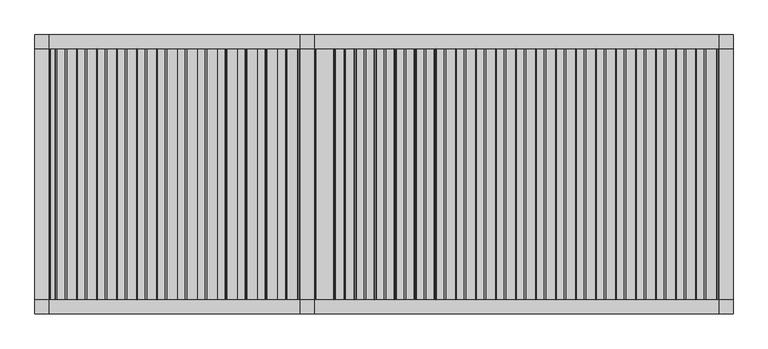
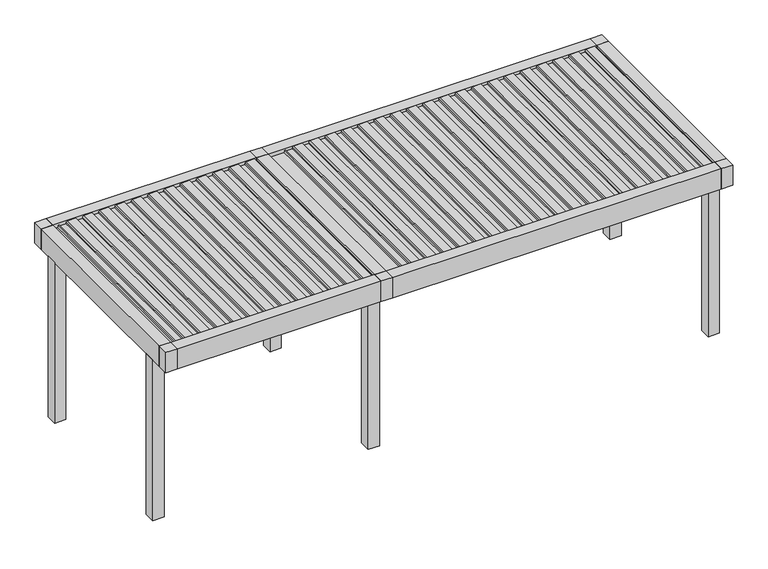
"""IFC4 building model written with IfcOpenShell, lengths in millimetres: proxy geometry, Renson_Amani_Patio_Cover : Renson_Amani_Patio_Cover."""

from ifc_helpers import new_model, si_unit, point, frame, frame_2d, origin, origin_with_axes, place, context, project, spatial, polyline, circle_curve, trimmed, segment, composite_curve, outline, extrude, source, transform, mapped, element, save


def generic_models_0a3c47ec(model_context):
    return source(origin(), model_context, "Body", "SweptSolid", [
        extrude(outline(composite_curve([segment(polyline([(2483.35, 5573.7350356), (2511.01198, 5576.1551453), (2512.3970364, 5604.9903957), (2531.8911096, 5601.5530647), (2526.6075693, 5491.5559498)]), True, "CONTINUOUS"), segment(trimmed(circle_curve(frame_2d((2511.6248435, 5492.2756218)), 15.0), [point((2526.6075693, 5491.5559498))], [point((2514.2295662, 5477.5035055))], False, "CARTESIAN"), True, "CONTINUOUS"), segment(polyline([(2514.2295662, 5477.5035055), (2495.0, 5474.1128141), (2495.0, 5386.3770381), (2512.0788237, 5383.3655807), (2511.3450182, 5368.0886102), (2483.35, 5365.6393635), (2483.35, 5573.7350356)]), True, "CONTINUOUS")], self_intersect=False)), frame((0.0, -1350.0, 0.0), z_axis=(0.0, 1.0, 0.0), x_axis=(0.0, 0.0, 1.0)), (0.0, 0.0, 1.0), 2700.0),
        extrude(outline(composite_curve([segment(polyline([(2483.35, 5358.7254314), (2511.01198, 5361.145541), (2512.3970364, 5389.9807915), (2531.8911096, 5386.5434604), (2526.6075693, 5276.5463456)]), True, "CONTINUOUS"), segment(trimmed(circle_curve(frame_2d((2511.6248435, 5277.2660175)), 15.0), [point((2526.6075693, 5276.5463456))], [point((2514.2295662, 5262.4939012))], False, "CARTESIAN"), True, "CONTINUOUS"), segment(polyline([(2514.2295662, 5262.4939012), (2495.0, 5259.1032099), (2495.0, 5171.3674338), (2512.0788237, 5168.3559764), (2511.3450182, 5153.0790059), (2483.35, 5150.6297592), (2483.35, 5358.7254314)]), True, "CONTINUOUS")], self_intersect=False)), frame((0.0, -1350.0, 0.0), z_axis=(0.0, 1.0, 0.0), x_axis=(0.0, 0.0, 1.0)), (0.0, 0.0, 1.0), 2700.0),
        extrude(outline(composite_curve([segment(polyline([(2483.35, 5143.7158271), (2511.01198, 5146.1359368), (2512.3970364, 5174.9711872), (2531.8911096, 5171.5338562), (2526.6075693, 5061.5367413)]), True, "CONTINUOUS"), segment(trimmed(circle_curve(frame_2d((2511.6248435, 5062.2564133)), 15.0), [point((2526.6075693, 5061.5367413))], [point((2514.2295662, 5047.484297))], False, "CARTESIAN"), True, "CONTINUOUS"), segment(polyline([(2514.2295662, 5047.484297), (2495.0, 5044.0936056), (2495.0, 4956.3578296), (2512.0788237, 4953.3463722), (2511.3450182, 4938.0694017), (2483.35, 4935.620155), (2483.35, 5143.7158271)]), True, "CONTINUOUS")], self_intersect=False)), frame((0.0, -1350.0, 0.0), z_axis=(0.0, 1.0, 0.0), x_axis=(0.0, 0.0, 1.0)), (0.0, 0.0, 1.0), 2700.0),
        extrude(outline(composite_curve([segment(polyline([(2483.35, 4928.7062229), (2511.01198, 4931.1263325), (2512.3970364, 4959.961583), (2531.8911096, 4956.5242519), (2526.6075693, 4846.5271371)]), True, "CONTINUOUS"), segment(trimmed(circle_curve(frame_2d((2511.6248435, 4847.246809)), 15.0), [point((2526.6075693, 4846.5271371))], [point((2514.2295662, 4832.4746927))], False, "CARTESIAN"), True, "CONTINUOUS"), segment(polyline([(2514.2295662, 4832.4746927), (2495.0, 4829.0840014), (2495.0, 4741.3482253), (2512.0788237, 4738.3367679), (2511.3450182, 4723.0597974), (2483.35, 4720.6105507), (2483.35, 4928.7062229)]), True, "CONTINUOUS")], self_intersect=False)), frame((0.0, -1350.0, 0.0), z_axis=(0.0, 1.0, 0.0), x_axis=(0.0, 0.0, 1.0)), (0.0, 0.0, 1.0), 2700.0),
        extrude(outline(composite_curve([segment(polyline([(2483.35, 4713.6966186), (2511.01198, 4716.1167283), (2512.3970364, 4744.9519787), (2531.8911096, 4741.5146477), (2526.6075693, 4631.5175328)]), True, "CONTINUOUS"), segment(trimmed(circle_curve(frame_2d((2511.6248435, 4632.2372048)), 15.0), [point((2526.6075693, 4631.5175328))], [point((2514.2295662, 4617.4650885))], False, "CARTESIAN"), True, "CONTINUOUS"), segment(polyline([(2514.2295662, 4617.4650885), (2495.0, 4614.0743971), (2495.0, 4526.3386211), (2512.0788237, 4523.3271637), (2511.3450182, 4508.0501932), (2483.35, 4505.6009465), (2483.35, 4713.6966186)]), True, "CONTINUOUS")], self_intersect=False)), frame((0.0, -1350.0, 0.0), z_axis=(0.0, 1.0, 0.0), x_axis=(0.0, 0.0, 1.0)), (0.0, 0.0, 1.0), 2700.0),
        extrude(outline(composite_curve([segment(polyline([(2483.35, 4498.6870144), (2511.01198, 4501.107124), (2512.3970364, 4529.9423745), (2531.8911096, 4526.5050434), (2526.6075693, 4416.5079286)]), True, "CONTINUOUS"), segment(trimmed(circle_curve(frame_2d((2511.6248435, 4417.2276005)), 15.0), [point((2526.6075693, 4416.5079286))], [point((2514.2295662, 4402.4554842))], False, "CARTESIAN"), True, "CONTINUOUS"), segment(polyline([(2514.2295662, 4402.4554842), (2495.0, 4399.0647929), (2495.0, 4311.3290168), (2512.0788237, 4308.3175594), (2511.3450182, 4293.0405889), (2483.35, 4290.5913422), (2483.35, 4498.6870144)]), True, "CONTINUOUS")], self_intersect=False)), frame((0.0, -1350.0, 0.0), z_axis=(0.0, 1.0, 0.0), x_axis=(0.0, 0.0, 1.0)), (0.0, 0.0, 1.0), 2700.0),
        extrude(outline(composite_curve([segment(polyline([(2483.35, 4283.6774101), (2511.01198, 4286.0975198), (2512.3970364, 4314.9327702), (2531.8911096, 4311.4954392), (2526.6075693, 4201.4983243)]), True, "CONTINUOUS"), segment(trimmed(circle_curve(frame_2d((2511.6248435, 4202.2179963)), 15.0), [point((2526.6075693, 4201.4983243))], [point((2514.2295662, 4187.44588))], False, "CARTESIAN"), True, "CONTINUOUS"), segment(polyline([(2514.2295662, 4187.44588), (2495.0, 4184.0551886), (2495.0, 4096.3194126), (2512.0788237, 4093.3079552), (2511.3450182, 4078.0309847), (2483.35, 4075.581738), (2483.35, 4283.6774101)]), True, "CONTINUOUS")], self_intersect=False)), frame((0.0, -1350.0, 0.0), z_axis=(0.0, 1.0, 0.0), x_axis=(0.0, 0.0, 1.0)), (0.0, 0.0, 1.0), 2700.0),
        extrude(outline(composite_curve([segment(polyline([(2483.35, 4068.6678059), (2511.01198, 4071.0879155), (2512.3970364, 4099.923166), (2531.8911096, 4096.4858349), (2526.6075693, 3986.4887201)]), True, "CONTINUOUS"), segment(trimmed(circle_curve(frame_2d((2511.6248435, 3987.208392)), 15.0), [point((2526.6075693, 3986.4887201))], [point((2514.2295662, 3972.4362757))], False, "CARTESIAN"), True, "CONTINUOUS"), segment(polyline([(2514.2295662, 3972.4362757), (2495.0, 3969.0455844), (2495.0, 3881.3098083), (2512.0788237, 3878.2983509), (2511.3450182, 3863.0213804), (2483.35, 3860.5721337), (2483.35, 4068.6678059)]), True, "CONTINUOUS")], self_intersect=False)), frame((0.0, -1350.0, 0.0), z_axis=(0.0, 1.0, 0.0), x_axis=(0.0, 0.0, 1.0)), (0.0, 0.0, 1.0), 2700.0),
        extrude(outline(composite_curve([segment(polyline([(2483.35, 3853.6582016), (2511.01198, 3856.0783113), (2512.3970364, 3884.9135617), (2531.8911096, 3881.4762307), (2526.6075693, 3771.4791158)]), True, "CONTINUOUS"), segment(trimmed(circle_curve(frame_2d((2511.6248435, 3772.1987878)), 15.0), [point((2526.6075693, 3771.4791158))], [point((2514.2295662, 3757.4266715))], False, "CARTESIAN"), True, "CONTINUOUS"), segment(polyline([(2514.2295662, 3757.4266715), (2495.0, 3754.0359801), (2495.0, 3666.3002041), (2512.0788237, 3663.2887467), (2511.3450182, 3648.0117762), (2483.35, 3645.5625295), (2483.35, 3853.6582016)]), True, "CONTINUOUS")], self_intersect=False)), frame((0.0, -1350.0, 0.0), z_axis=(0.0, 1.0, 0.0), x_axis=(0.0, 0.0, 1.0)), (0.0, 0.0, 1.0), 2700.0),
        extrude(outline(composite_curve([segment(polyline([(2483.35, 3638.6485974), (2511.01198, 3641.068707), (2512.3970364, 3669.9039575), (2531.8911096, 3666.4666264), (2526.6075693, 3556.4695116)]), True, "CONTINUOUS"), segment(trimmed(circle_curve(frame_2d((2511.6248435, 3557.1891835)), 15.0), [point((2526.6075693, 3556.4695116))], [point((2514.2295662, 3542.4170672))], False, "CARTESIAN"), True, "CONTINUOUS"), segment(polyline([(2514.2295662, 3542.4170672), (2495.0, 3539.0263759), (2495.0, 3451.2905998), (2512.0788237, 3448.2791424), (2511.3450182, 3433.0021719), (2483.35, 3430.5529252), (2483.35, 3638.6485974)]), True, "CONTINUOUS")], self_intersect=False)), frame((0.0, -1350.0, 0.0), z_axis=(0.0, 1.0, 0.0), x_axis=(0.0, 0.0, 1.0)), (0.0, 0.0, 1.0), 2700.0),
        extrude(outline(composite_curve([segment(polyline([(2483.35, 3423.6389931), (2511.01198, 3426.0591028), (2512.3970364, 3454.8943532), (2531.8911096, 3451.4570222), (2526.6075693, 3341.4599073)]), True, "CONTINUOUS"), segment(trimmed(circle_curve(frame_2d((2511.6248435, 3342.1795792)), 15.0), [point((2526.6075693, 3341.4599073))], [point((2514.2295662, 3327.407463))], False, "CARTESIAN"), True, "CONTINUOUS"), segment(polyline([(2514.2295662, 3327.407463), (2495.0, 3324.0167716), (2495.0, 3236.2809956), (2512.0788237, 3233.2695382), (2511.3450182, 3217.9925677), (2483.35, 3215.543321), (2483.35, 3423.6389931)]), True, "CONTINUOUS")], self_intersect=False)), frame((0.0, -1350.0, 0.0), z_axis=(0.0, 1.0, 0.0), x_axis=(0.0, 0.0, 1.0)), (0.0, 0.0, 1.0), 2700.0),
        extrude(outline(composite_curve([segment(polyline([(2483.35, 3208.6293889), (2511.01198, 3211.0494985), (2512.3970364, 3239.884749), (2531.8911096, 3236.4474179), (2526.6075693, 3126.4503031)]), True, "CONTINUOUS"), segment(trimmed(circle_curve(frame_2d((2511.6248435, 3127.169975)), 15.0), [point((2526.6075693, 3126.4503031))], [point((2514.2295662, 3112.3978587))], False, "CARTESIAN"), True, "CONTINUOUS"), segment(polyline([(2514.2295662, 3112.3978587), (2495.0, 3109.0071674), (2495.0, 3021.2713913), (2512.0788237, 3018.2599339), (2511.3450182, 3002.9829634), (2483.35, 3000.5337167), (2483.35, 3208.6293889)]), True, "CONTINUOUS")], self_intersect=False)), frame((0.0, -1350.0, 0.0), z_axis=(0.0, 1.0, 0.0), x_axis=(0.0, 0.0, 1.0)), (0.0, 0.0, 1.0), 2700.0),
        extrude(outline(composite_curve([segment(polyline([(2483.35, 2993.6197846), (2511.01198, 2996.0398943), (2512.3970364, 3024.8751447), (2531.8911096, 3021.4378137), (2526.6075693, 2911.4406988)]), True, "CONTINUOUS"), segment(trimmed(circle_curve(frame_2d((2511.6248435, 2912.1603707)), 15.0), [point((2526.6075693, 2911.4406988))], [point((2514.2295662, 2897.3882545))], False, "CARTESIAN"), True, "CONTINUOUS"), segment(polyline([(2514.2295662, 2897.3882545), (2495.0, 2893.9975631), (2495.0, 2806.2617871), (2512.0788237, 2803.2503297), (2511.3450182, 2787.9733592), (2483.35, 2785.5241125), (2483.35, 2993.6197846)]), True, "CONTINUOUS")], self_intersect=False)), frame((0.0, -1350.0, 0.0), z_axis=(0.0, 1.0, 0.0), x_axis=(0.0, 0.0, 1.0)), (0.0, 0.0, 1.0), 2700.0),
        extrude(outline(composite_curve([segment(polyline([(2483.35, 2778.6101804), (2511.01198, 2781.03029), (2512.3970364, 2809.8655405), (2531.8911096, 2806.4282094), (2526.6075693, 2696.4310946)]), True, "CONTINUOUS"), segment(trimmed(circle_curve(frame_2d((2511.6248435, 2697.1507665)), 15.0), [point((2526.6075693, 2696.4310946))], [point((2514.2295662, 2682.3786502))], False, "CARTESIAN"), True, "CONTINUOUS"), segment(polyline([(2514.2295662, 2682.3786502), (2495.0, 2678.9879589), (2495.0, 2591.2521828), (2512.0788237, 2588.2407254), (2511.3450182, 2572.9637549), (2483.35, 2570.5145082), (2483.35, 2778.6101804)]), True, "CONTINUOUS")], self_intersect=False)), frame((0.0, -1350.0, 0.0), z_axis=(0.0, 1.0, 0.0), x_axis=(0.0, 0.0, 1.0)), (0.0, 0.0, 1.0), 2700.0),
        extrude(outline(composite_curve([segment(polyline([(2483.35, 2563.6005761), (2511.01198, 2566.0206858), (2512.3970364, 2594.8559362), (2531.8911096, 2591.4186052), (2526.6075693, 2481.4214903)]), True, "CONTINUOUS"), segment(trimmed(circle_curve(frame_2d((2511.6248435, 2482.1411622)), 15.0), [point((2526.6075693, 2481.4214903))], [point((2514.2295662, 2467.369046))], False, "CARTESIAN"), True, "CONTINUOUS"), segment(polyline([(2514.2295662, 2467.369046), (2495.0, 2463.9783546), (2495.0, 2376.2425786), (2512.0788237, 2373.2311212), (2511.3450182, 2357.9541507), (2483.35, 2355.504904), (2483.35, 2563.6005761)]), True, "CONTINUOUS")], self_intersect=False)), frame((0.0, -1350.0, 0.0), z_axis=(0.0, 1.0, 0.0), x_axis=(0.0, 0.0, 1.0)), (0.0, 0.0, 1.0), 2700.0),
        extrude(outline(composite_curve([segment(polyline([(2483.35, 2348.5909719), (2511.01198, 2351.0110815), (2512.3970364, 2379.846332), (2531.8911096, 2376.4090009), (2526.6075693, 2266.4118861)]), True, "CONTINUOUS"), segment(trimmed(circle_curve(frame_2d((2511.6248435, 2267.131558)), 15.0), [point((2526.6075693, 2266.4118861))], [point((2514.2295662, 2252.3594417))], False, "CARTESIAN"), True, "CONTINUOUS"), segment(polyline([(2514.2295662, 2252.3594417), (2495.0, 2248.9687504), (2495.0, 2161.2329743), (2512.0788237, 2158.2215169), (2511.3450182, 2142.9445464), (2483.35, 2140.4952997), (2483.35, 2348.5909719)]), True, "CONTINUOUS")], self_intersect=False)), frame((0.0, -1350.0, 0.0), z_axis=(0.0, 1.0, 0.0), x_axis=(0.0, 0.0, 1.0)), (0.0, 0.0, 1.0), 2700.0),
        extrude(outline(composite_curve([segment(polyline([(2483.35, 2133.5813676), (2511.01198, 2136.0014773), (2512.3970364, 2164.8367277), (2531.8911096, 2161.3993967), (2526.6075693, 2051.4022818)]), True, "CONTINUOUS"), segment(trimmed(circle_curve(frame_2d((2511.6248435, 2052.1219537)), 15.0), [point((2526.6075693, 2051.4022818))], [point((2514.2295662, 2037.3498375))], False, "CARTESIAN"), True, "CONTINUOUS"), segment(polyline([(2514.2295662, 2037.3498375), (2495.0, 2033.9591461), (2495.0, 1946.2233701), (2512.0788237, 1943.2119127), (2511.3450182, 1927.9349422), (2483.35, 1925.4856955), (2483.35, 2133.5813676)]), True, "CONTINUOUS")], self_intersect=False)), frame((0.0, -1350.0, 0.0), z_axis=(0.0, 1.0, 0.0), x_axis=(0.0, 0.0, 1.0)), (0.0, 0.0, 1.0), 2700.0),
        extrude(outline(composite_curve([segment(polyline([(2483.35, 5788.7446399), (2511.01198, 5791.1647495), (2512.3970364, 5820.0), (2531.8911096, 5816.5626689), (2526.6075693, 5706.5655541)]), True, "CONTINUOUS"), segment(trimmed(circle_curve(frame_2d((2511.6248435, 5707.285226)), 15.0), [point((2526.6075693, 5706.5655541))], [point((2514.2295662, 5692.5131097))], False, "CARTESIAN"), True, "CONTINUOUS"), segment(polyline([(2514.2295662, 5692.5131097), (2495.0, 5689.1224184), (2495.0, 5601.3866423), (2512.0788237, 5598.3751849), (2511.3450182, 5583.0982144), (2483.35, 5580.6489677), (2483.35, 5788.7446399)]), True, "CONTINUOUS")], self_intersect=False)), frame((0.0, -1350.0, 0.0), z_axis=(0.0, 1.0, 0.0), x_axis=(0.0, 0.0, 1.0)), (0.0, 0.0, 1.0), 2700.0),
        extrude(outline(composite_curve([segment(polyline([(2483.35, 1918.5717634), (2511.01198, 1920.991873), (2512.3970364, 1949.8271235), (2531.8911096, 1946.3897924), (2526.6075693, 1836.3926776)]), True, "CONTINUOUS"), segment(trimmed(circle_curve(frame_2d((2511.6248435, 1837.1123495)), 15.0), [point((2526.6075693, 1836.3926776))], [point((2514.2295662, 1822.3402332))], False, "CARTESIAN"), True, "CONTINUOUS"), segment(polyline([(2514.2295662, 1822.3402332), (2495.0, 1818.9495419), (2495.0, 1731.2137658), (2512.0788237, 1728.2023084), (2511.3450182, 1712.9253379), (2483.35, 1710.4760912), (2483.35, 1918.5717634)]), True, "CONTINUOUS")], self_intersect=False)), frame((0.0, -1350.0, 0.0), z_axis=(0.0, 1.0, 0.0), x_axis=(0.0, 0.0, 1.0)), (0.0, 0.0, 1.0), 2700.0),
        extrude(outline(composite_curve([segment(polyline([(2483.35, 1073.7289238), (2511.01198, 1076.1490335), (2512.3970364, 1104.984284), (2531.8911096, 1101.5469529), (2526.6075693, 991.549838)]), True, "CONTINUOUS"), segment(trimmed(circle_curve(frame_2d((2511.6248435, 992.26951)), 15.0), [point((2526.6075693, 991.549838))], [point((2514.2295662, 977.4973937))], False, "CARTESIAN"), True, "CONTINUOUS"), segment(polyline([(2514.2295662, 977.4973937), (2495.0, 974.1067023), (2495.0, 886.3709263), (2512.0788237, 883.3594689), (2511.3450182, 868.0824984), (2483.35, 865.6332517), (2483.35, 1073.7289238)]), True, "CONTINUOUS")], self_intersect=False)), frame((0.0, -1350.0, 0.0), z_axis=(0.0, 1.0, 0.0), x_axis=(0.0, 0.0, 1.0)), (0.0, 0.0, 1.0), 2700.0),
        extrude(outline(composite_curve([segment(polyline([(2483.35, 858.7132078), (2511.01198, 861.1333174), (2512.3970364, 889.9685679), (2531.8911096, 886.5312368), (2526.6075693, 776.534122)]), True, "CONTINUOUS"), segment(trimmed(circle_curve(frame_2d((2511.6248435, 777.2537939)), 15.0), [point((2526.6075693, 776.534122))], [point((2514.2295662, 762.4816776))], False, "CARTESIAN"), True, "CONTINUOUS"), segment(polyline([(2514.2295662, 762.4816776), (2495.0, 759.0909863), (2495.0, 671.3552102), (2512.0788237, 668.3437528), (2511.3450182, 653.0667824), (2483.35, 650.6175356), (2483.35, 858.7132078)]), True, "CONTINUOUS")], self_intersect=False)), frame((0.0, -1350.0, 0.0), z_axis=(0.0, 1.0, 0.0), x_axis=(0.0, 0.0, 1.0)), (0.0, 0.0, 1.0), 2700.0),
        extrude(outline(composite_curve([segment(polyline([(2483.35, 643.6974917), (2511.01198, 646.1176014), (2512.3970364, 674.9528519), (2531.8911096, 671.5155208), (2526.6075693, 561.5184059)]), True, "CONTINUOUS"), segment(trimmed(circle_curve(frame_2d((2511.6248435, 562.2380779)), 15.0), [point((2526.6075693, 561.5184059))], [point((2514.2295662, 547.4659616))], False, "CARTESIAN"), True, "CONTINUOUS"), segment(polyline([(2514.2295662, 547.4659616), (2495.0, 544.0752702), (2495.0, 456.3394942), (2512.0788237, 453.3280368), (2511.3450182, 438.0510663), (2483.35, 435.6018196), (2483.35, 643.6974917)]), True, "CONTINUOUS")], self_intersect=False)), frame((0.0, -1350.0, 0.0), z_axis=(0.0, 1.0, 0.0), x_axis=(0.0, 0.0, 1.0)), (0.0, 0.0, 1.0), 2700.0),
        extrude(outline(composite_curve([segment(polyline([(2483.35, 428.6817757), (2511.01198, 431.1018854), (2512.3970364, 459.9371358), (2531.8911096, 456.4998047), (2526.6075693, 346.5026899)]), True, "CONTINUOUS"), segment(trimmed(circle_curve(frame_2d((2511.6248435, 347.2223618)), 15.0), [point((2526.6075693, 346.5026899))], [point((2514.2295662, 332.4502455))], False, "CARTESIAN"), True, "CONTINUOUS"), segment(polyline([(2514.2295662, 332.4502455), (2495.0, 329.0595542), (2495.0, 241.3237782), (2512.0788237, 238.3123207), (2511.3450182, 223.0353503), (2483.35, 220.5861035), (2483.35, 428.6817757)]), True, "CONTINUOUS")], self_intersect=False)), frame((0.0, -1350.0, 0.0), z_axis=(0.0, 1.0, 0.0), x_axis=(0.0, 0.0, 1.0)), (0.0, 0.0, 1.0), 2700.0),
        extrude(outline(composite_curve([segment(polyline([(2483.35, 213.6660597), (2511.01198, 216.0861693), (2512.3970364, 244.9214198), (2531.8911096, 241.4840887), (2526.6075693, 131.4869738)]), True, "CONTINUOUS"), segment(trimmed(circle_curve(frame_2d((2511.6248435, 132.2066458)), 15.0), [point((2526.6075693, 131.4869738))], [point((2514.2295662, 117.4345295))], False, "CARTESIAN"), True, "CONTINUOUS"), segment(polyline([(2514.2295662, 117.4345295), (2495.0, 114.0438381), (2495.0, 26.3080621), (2512.0788237, 23.2966047), (2511.3450182, 8.0196342), (2483.35, 5.5703875), (2483.35, 213.6660597)]), True, "CONTINUOUS")], self_intersect=False)), frame((0.0, -1350.0, 0.0), z_axis=(0.0, 1.0, 0.0), x_axis=(0.0, 0.0, 1.0)), (0.0, 0.0, 1.0), 2700.0),
        extrude(outline(composite_curve([segment(polyline([(2483.35, -1.3496564), (2511.01198, 1.0704533), (2512.3970364, 29.9057037), (2531.8911096, 26.4683726), (2526.6075693, -83.5287422)]), True, "CONTINUOUS"), segment(trimmed(circle_curve(frame_2d((2511.6248435, -82.8090703)), 15.0), [point((2526.6075693, -83.5287422))], [point((2514.2295662, -97.5811866))], False, "CARTESIAN"), True, "CONTINUOUS"), segment(polyline([(2514.2295662, -97.5811866), (2495.0, -100.9718779), (2495.0, -188.7076539), (2512.0788237, -191.7191114), (2511.3450182, -206.9960818), (2483.35, -209.4453286), (2483.35, -1.3496564)]), True, "CONTINUOUS")], self_intersect=False)), frame((0.0, -1350.0, 0.0), z_axis=(0.0, 1.0, 0.0), x_axis=(0.0, 0.0, 1.0)), (0.0, 0.0, 1.0), 2700.0),
        extrude(outline(composite_curve([segment(polyline([(2483.35, -216.3653724), (2511.01198, -213.9452628), (2512.3970364, -185.1100123), (2531.8911096, -188.5473434), (2526.6075693, -298.5444582)]), True, "CONTINUOUS"), segment(trimmed(circle_curve(frame_2d((2511.6248435, -297.8247863)), 15.0), [point((2526.6075693, -298.5444582))], [point((2514.2295662, -312.5969026))], False, "CARTESIAN"), True, "CONTINUOUS"), segment(polyline([(2514.2295662, -312.5969026), (2495.0, -315.987594), (2495.0, -403.72337), (2512.0788237, -406.7348274), (2511.3450182, -422.0117979), (2483.35, -424.4610446), (2483.35, -216.3653724)]), True, "CONTINUOUS")], self_intersect=False)), frame((0.0, -1350.0, 0.0), z_axis=(0.0, 1.0, 0.0), x_axis=(0.0, 0.0, 1.0)), (0.0, 0.0, 1.0), 2700.0),
        extrude(outline(composite_curve([segment(polyline([(2483.35, -431.3810885), (2511.01198, -428.9609788), (2512.3970364, -400.1257284), (2531.8911096, -403.5630594), (2526.6075693, -513.5601743)]), True, "CONTINUOUS"), segment(trimmed(circle_curve(frame_2d((2511.6248435, -512.8405024)), 15.0), [point((2526.6075693, -513.5601743))], [point((2514.2295662, -527.6126187))], False, "CARTESIAN"), True, "CONTINUOUS"), segment(polyline([(2514.2295662, -527.6126187), (2495.0, -531.00331), (2495.0, -618.739086), (2512.0788237, -621.7505434), (2511.3450182, -637.0275139), (2483.35, -639.4767606), (2483.35, -431.3810885)]), True, "CONTINUOUS")], self_intersect=False)), frame((0.0, -1350.0, 0.0), z_axis=(0.0, 1.0, 0.0), x_axis=(0.0, 0.0, 1.0)), (0.0, 0.0, 1.0), 2700.0),
        extrude(outline(composite_curve([segment(polyline([(2483.35, -646.3968045), (2511.01198, -643.9766949), (2512.3970364, -615.1414444), (2531.8911096, -618.5787755), (2526.6075693, -728.5758903)]), True, "CONTINUOUS"), segment(trimmed(circle_curve(frame_2d((2511.6248435, -727.8562184)), 15.0), [point((2526.6075693, -728.5758903))], [point((2514.2295662, -742.6283347))], False, "CARTESIAN"), True, "CONTINUOUS"), segment(polyline([(2514.2295662, -742.6283347), (2495.0, -746.019026), (2495.0, -833.7548021), (2512.0788237, -836.7662595), (2511.3450182, -852.04323), (2483.35, -854.4924767), (2483.35, -646.3968045)]), True, "CONTINUOUS")], self_intersect=False)), frame((0.0, -1350.0, 0.0), z_axis=(0.0, 1.0, 0.0), x_axis=(0.0, 0.0, 1.0)), (0.0, 0.0, 1.0), 2700.0),
        extrude(outline(composite_curve([segment(polyline([(2483.35, -861.4125206), (2511.01198, -858.9924109), (2512.3970364, -830.1571605), (2531.8911096, -833.5944915), (2526.6075693, -943.5916064)]), True, "CONTINUOUS"), segment(trimmed(circle_curve(frame_2d((2511.6248435, -942.8719345)), 15.0), [point((2526.6075693, -943.5916064))], [point((2514.2295662, -957.6440508))], False, "CARTESIAN"), True, "CONTINUOUS"), segment(polyline([(2514.2295662, -957.6440508), (2495.0, -961.0347421), (2495.0, -1048.7705181), (2512.0788237, -1051.7819755), (2511.3450182, -1067.058946), (2483.35, -1069.5081927), (2483.35, -861.4125206)]), True, "CONTINUOUS")], self_intersect=False)), frame((0.0, -1350.0, 0.0), z_axis=(0.0, 1.0, 0.0), x_axis=(0.0, 0.0, 1.0)), (0.0, 0.0, 1.0), 2700.0),
        extrude(outline(composite_curve([segment(polyline([(2483.35, 1288.7446399), (2511.01198, 1291.1647495), (2512.3970364, 1320.0), (2531.8911096, 1316.5626689), (2526.6075693, 1206.5655541)]), True, "CONTINUOUS"), segment(trimmed(circle_curve(frame_2d((2511.6248435, 1207.285226)), 15.0), [point((2526.6075693, 1206.5655541))], [point((2514.2295662, 1192.5131097))], False, "CARTESIAN"), True, "CONTINUOUS"), segment(polyline([(2514.2295662, 1192.5131097), (2495.0, 1189.1224184), (2495.0, 1101.3866423), (2512.0788237, 1098.3751849), (2511.3450182, 1083.0982144), (2483.35, 1080.6489677), (2483.35, 1288.7446399)]), True, "CONTINUOUS")], self_intersect=False)), frame((0.0, -1350.0, 0.0), z_axis=(0.0, 1.0, 0.0), x_axis=(0.0, 0.0, 1.0)), (0.0, 0.0, 1.0), 2700.0),
        extrude(outline(composite_curve([segment(polyline([(2483.35, -1076.4282366), (2511.01198, -1074.008127), (2512.3970364, -1045.1728765), (2531.8911096, -1048.6102076), (2526.6075693, -1158.6073224)]), True, "CONTINUOUS"), segment(trimmed(circle_curve(frame_2d((2511.6248435, -1157.8876505)), 15.0), [point((2526.6075693, -1158.6073224))], [point((2514.2295662, -1172.6597668))], False, "CARTESIAN"), True, "CONTINUOUS"), segment(polyline([(2514.2295662, -1172.6597668), (2495.0, -1176.0504581), (2495.0, -1263.7862342), (2512.0788237, -1266.7976916), (2511.3450182, -1282.0746621), (2483.35, -1284.5239088), (2483.35, -1076.4282366)]), True, "CONTINUOUS")], self_intersect=False)), frame((0.0, -1350.0, 0.0), z_axis=(0.0, 1.0, 0.0), x_axis=(0.0, 0.0, 1.0)), (0.0, 0.0, 1.0), 2700.0),
        extrude(outline(polyline([(6000.0, -1050.0), (6000.0, -1200.0), (5850.0, -1200.0), (5850.0, -1050.0), (6000.0, -1050.0)])), origin_with_axes(), (0.0, 0.0, 1.0), 2250.0),
        extrude(outline(polyline([(6000.0, 1200.0), (6000.0, 1050.0), (5850.0, 1050.0), (5850.0, 1200.0), (6000.0, 1200.0)])), origin_with_axes(), (0.0, 0.0, 1.0), 2250.0),
        extrude(outline(polyline([(6000.0, -1350.0), (6000.0, -1500.0), (5850.0, -1500.0), (5850.0, -1350.0), (6000.0, -1350.0)])), frame((0.0, 0.0, 2250.0), z_axis=(0.0, 0.0, 1.0), x_axis=(1.0, 0.0, 0.0)), (0.0, 0.0, 1.0), 285.0),
        extrude(outline(polyline([(6000.0, 1350.0), (5850.0, 1350.0), (5850.0, 1500.0), (6000.0, 1500.0), (6000.0, 1350.0)])), frame((0.0, 0.0, 2250.0), z_axis=(0.0, 0.0, 1.0), x_axis=(1.0, 0.0, 0.0)), (0.0, 0.0, 1.0), 285.0),
        extrude(outline(polyline([(1500.0, 1500.0), (1500.0, 1350.0), (1350.0, 1350.0), (1350.0, 1500.0), (1500.0, 1500.0)])), frame((0.0, 0.0, 2250.0), z_axis=(0.0, 0.0, 1.0), x_axis=(1.0, 0.0, 0.0)), (0.0, 0.0, 1.0), 285.0),
        extrude(outline(polyline([(1500.0, -1350.0), (1500.0, -1500.0), (1350.0, -1500.0), (1350.0, -1350.0), (1500.0, -1350.0)])), frame((0.0, 0.0, 2250.0), z_axis=(0.0, 0.0, 1.0), x_axis=(1.0, 0.0, 0.0)), (0.0, 0.0, 1.0), 285.0),
        extrude(outline(polyline([(-1350.0, 1500.0), (-1350.0, 1350.0), (-1500.0, 1350.0), (-1500.0, 1500.0), (-1350.0, 1500.0)])), frame((0.0, 0.0, 2250.0), z_axis=(0.0, 0.0, 1.0), x_axis=(1.0, 0.0, 0.0)), (0.0, 0.0, 1.0), 285.0),
        extrude(outline(polyline([(-1350.0, -1500.0), (-1500.0, -1500.0), (-1500.0, -1350.0), (-1350.0, -1350.0), (-1350.0, -1500.0)])), frame((0.0, 0.0, 2250.0), z_axis=(0.0, 0.0, 1.0), x_axis=(1.0, 0.0, 0.0)), (0.0, 0.0, 1.0), 285.0),
        extrude(outline(polyline([(1500.0, -1050.0), (1500.0, -1200.0), (1350.0, -1200.0), (1350.0, -1050.0), (1500.0, -1050.0)])), origin_with_axes(), (0.0, 0.0, 1.0), 2250.0),
        extrude(outline(polyline([(-1350.0, -1050.0), (-1350.0, -1200.0), (-1500.0, -1200.0), (-1500.0, -1050.0), (-1350.0, -1050.0)])), origin_with_axes(), (0.0, 0.0, 1.0), 2250.0),
        extrude(outline(polyline([(1500.0, 1200.0), (1500.0, 1050.0), (1350.0, 1050.0), (1350.0, 1200.0), (1500.0, 1200.0)])), origin_with_axes(), (0.0, 0.0, 1.0), 2250.0),
        extrude(outline(polyline([(-1350.0, 1200.0), (-1350.0, 1050.0), (-1500.0, 1050.0), (-1500.0, 1200.0), (-1350.0, 1200.0)])), origin_with_axes(), (0.0, 0.0, 1.0), 2250.0),
        extrude(outline(polyline([(2466.6559373, 1500.0), (2466.6559373, 1705.0), (2480.6555802, 1708.7512887), (2480.6555802, 1520.4059055), (2496.400763, 1505.0), (2504.2449277, 1505.0), (2504.6823598, 1500.0), (2466.6559373, 1500.0)])), frame((0.0, -1350.0, 0.0), z_axis=(0.0, 1.0, 0.0), x_axis=(0.0, 0.0, 1.0)), (0.0, 0.0, 1.0), 2700.0),
        extrude(outline(polyline([(-1350.0, 2535.0), (-1350.0, 2322.0), (-1280.0000001, 2322.0), (-1280.0000001, 2250.0), (-1500.0, 2250.0), (-1500.0, 2535.0), (-1350.0, 2535.0)])), frame((1500.0, 0.0, 0.0), z_axis=(1.0, 0.0, 0.0), x_axis=(0.0, 1.0, 0.0)), (0.0, 0.0, 1.0), 4350.0),
        extrude(outline(polyline([(1500.0, 2250.0), (1280.0000001, 2250.0), (1280.0000001, 2322.0), (1350.0, 2322.0), (1350.0, 2535.0), (1500.0, 2535.0), (1500.0, 2250.0)])), frame((1500.0, 0.0, 0.0), z_axis=(1.0, 0.0, 0.0), x_axis=(0.0, 1.0, 0.0)), (0.0, 0.0, 1.0), 4350.0),
        extrude(outline(polyline([(2535.0, 6000.0), (2535.0, 5850.0), (2504.6823598, 5850.0), (2504.2449277, 5845.0), (2496.400763, 5845.0), (2480.6555802, 5829.2544156), (2480.6555802, 5819.9090324), (2466.6559373, 5823.6603211), (2466.6559373, 5850.0), (2250.0, 5850.0), (2250.0, 6000.0), (2535.0, 6000.0)])), frame((0.0, -1350.0, 0.0), z_axis=(0.0, 1.0, 0.0), x_axis=(0.0, 0.0, 1.0)), (0.0, 0.0, 1.0), 2700.0),
        extrude(outline(polyline([(2466.6559373, -1350.0), (2466.6559373, -1290.0), (2480.6555802, -1286.2487113), (2480.6555802, -1329.5940945), (2496.400763, -1345.0), (2504.2449277, -1345.0), (2504.6823598, -1350.0), (2466.6559373, -1350.0)])), frame((0.0, -1350.0, 0.0), z_axis=(0.0, 1.0, 0.0), x_axis=(0.0, 0.0, 1.0)), (0.0, 0.0, 1.0), 2700.0),
        extrude(outline(polyline([(-1350.0, -1350.0), (-1500.0, -1350.0), (-1500.0, 1350.0), (-1350.0, 1350.0), (-1350.0, -1350.0)])), frame((0.0, 0.0, 2250.0), z_axis=(0.0, 0.0, 1.0), x_axis=(1.0, 0.0, 0.0)), (0.0, 0.0, 1.0), 285.0),
        extrude(outline(polyline([(2535.0, 1500.0), (2535.0, 1350.0), (2504.6904658, 1350.0), (2504.2449277, 1345.0), (2496.400763, 1345.0), (2480.6555802, 1329.2544156), (2480.6555802, 1319.9090324), (2466.6559373, 1323.6603211), (2466.6559373, 1350.0), (2250.0, 1350.0), (2250.0, 1500.0), (2535.0, 1500.0)])), frame((0.0, -1350.0, 0.0), z_axis=(0.0, 1.0, 0.0), x_axis=(0.0, 0.0, 1.0)), (0.0, 0.0, 1.0), 2700.0),
        extrude(outline(polyline([(-1350.0, 2535.0), (-1350.0, 2322.0), (-1280.0000001, 2322.0), (-1280.0000001, 2250.0), (-1500.0, 2250.0), (-1500.0, 2535.0), (-1350.0, 2535.0)])), frame((-1350.0, 0.0, 0.0), z_axis=(1.0, 0.0, 0.0), x_axis=(0.0, 1.0, 0.0)), (0.0, 0.0, 1.0), 2700.0),
        extrude(outline(polyline([(1500.0, 2250.0), (1280.0000001, 2250.0), (1280.0000001, 2322.0), (1350.0, 2322.0), (1350.0, 2535.0), (1500.0, 2535.0), (1500.0, 2250.0)])), frame((-1350.0, 0.0, 0.0), z_axis=(1.0, 0.0, 0.0), x_axis=(0.0, 1.0, 0.0)), (0.0, 0.0, 1.0), 2700.0),
    ])


if __name__ == "__main__":
    model = new_model("IFC4")
    model_context = context("Model", 3, world=origin())
    ifc_project = project(units=[si_unit("LENGTHUNIT", "METRE", prefix="MILLI")], contexts=[model_context])
    site = spatial("IfcSite", under=ifc_project)
    building = spatial("IfcBuilding", under=site)
    placement = place(None, origin())
    generic_models_shape = generic_models_0a3c47ec(model_context)
    element("IfcBuildingElementProxy", 1, Name="Renson_Amani_Patio_Cover : Renson_Amani_Patio_Cover", ObjectType="Renson_Amani_Patio_Cover : Renson_Amani_Patio_Cover", at=placement, inside=building, context=model_context, shape_type="MappedRepresentation", body=[
        mapped(generic_models_shape, transform((0.0, 0.0, 0.0), x_axis=(1.0, 0.0, 0.0), y_axis=(0.0, 1.0, 0.0), z_axis=(0.0, 0.0, 1.0))),
    ])
    save(model, "model.ifc")
